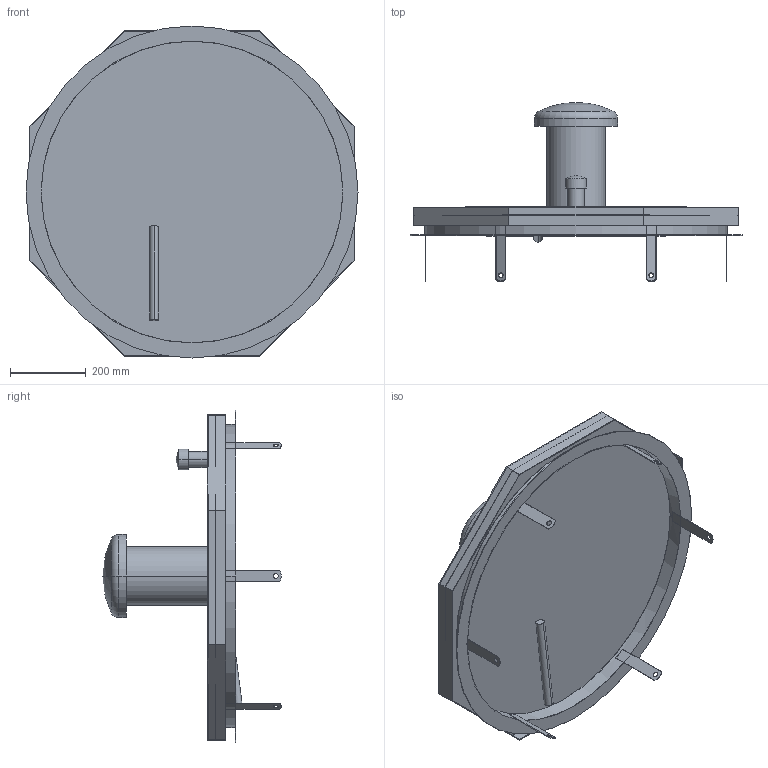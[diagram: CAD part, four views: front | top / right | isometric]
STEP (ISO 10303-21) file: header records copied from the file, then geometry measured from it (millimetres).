
FILE_DESCRIPTION((''),'2;1');
FILE_NAME('017_000107','2017-06-12T',('set'),('HUBER SE'),'PRO/ENGINEER BY PARAMETRIC TECHNOLOGY CORPORATION, 2015280','PRO/ENGINEER BY PARAMETRIC TECHNOLOGY CORPORATION, 2015280','');
FILE_SCHEMA(('CONFIG_CONTROL_DESIGN'));
Length unit declared in the file: millimetre
Products named in the file (1): 017_000107
Bounding box: 875 x 471.25 x 875 mm (x, y, z)
Volume: 8705816.7 mm3; surface area: 3349991.8 mm2
Topology: 3 solids, 4 shells, 106 faces, 400 edges, 326 vertices
Faces by surface type: plane 66, cylinder 34, sphere 4, torus 2
Entity records: 4071 total; most frequent: CARTESIAN_POINT 831, DIRECTION 665, ORIENTED_EDGE 544, EDGE_CURVE 272, VECTOR 259, LINE 259, AXIS2_PLACEMENT_3D 203, VERTEX_POINT 180
